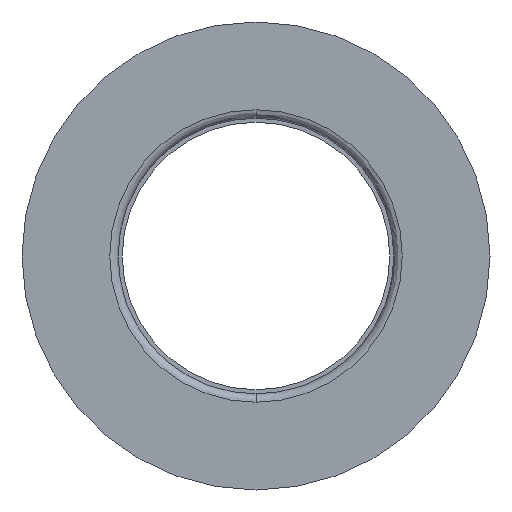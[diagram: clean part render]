
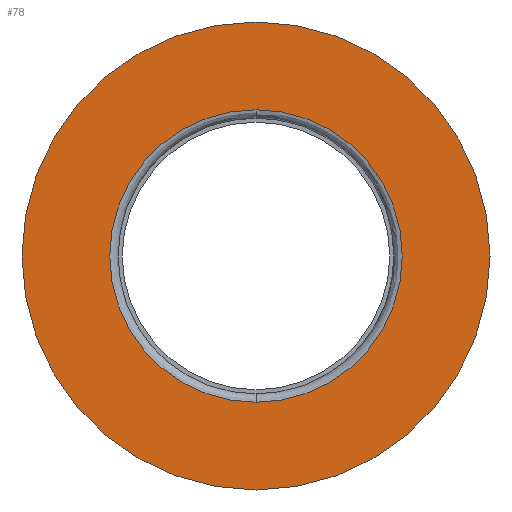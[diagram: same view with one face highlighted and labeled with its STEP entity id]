
A CAD part, left-side view. The second image highlights one B-rep face of the part: STEP entity #78.
In plain terms, the highlighted free-form (B-spline) face has degree [1, 1] with [2, 2] control points.
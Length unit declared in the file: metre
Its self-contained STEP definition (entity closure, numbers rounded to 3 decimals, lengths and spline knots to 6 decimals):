
#78 = ADVANCED_FACE( '', ( #105, #106 ), #107, .T. );
#105 = FACE_BOUND( '', #160, .T. );
#106 = FACE_OUTER_BOUND( '', #161, .T. );
#107 = B_SPLINE_SURFACE_WITH_KNOTS( '', 1, 1, ( ( #162, #163 ), ( #164, #165 ) ), .UNSPECIFIED., .F., .F., .F., ( 2, 2 ), ( 2, 2 ), ( 0., 1. ), ( 0., 1. ), .UNSPECIFIED. );
#160 = EDGE_LOOP( '', ( #339, #340 ) );
#161 = EDGE_LOOP( '', ( #341, #342 ) );
#162 = CARTESIAN_POINT( '', ( -0.03, -0.014168, -0.014168 ) );
#163 = CARTESIAN_POINT( '', ( -0.03, 0.014168, -0.014168 ) );
#164 = CARTESIAN_POINT( '', ( -0.03, -0.014168, 0.014168 ) );
#165 = CARTESIAN_POINT( '', ( -0.03, 0.014168, 0.014168 ) );
#339 = ORIENTED_EDGE( '', *, *, #487, .T. );
#340 = ORIENTED_EDGE( '', *, *, #488, .T. );
#341 = ORIENTED_EDGE( '', *, *, #489, .T. );
#342 = ORIENTED_EDGE( '', *, *, #490, .T. );
#487 = EDGE_CURVE( '', #539, #540, #541, .F. );
#488 = EDGE_CURVE( '', #540, #539, #542, .F. );
#489 = EDGE_CURVE( '', #543, #544, #545, .F. );
#490 = EDGE_CURVE( '', #544, #543, #546, .F. );
#539 = VERTEX_POINT( '', #619 );
#540 = VERTEX_POINT( '', #620 );
#541 = CIRCLE( '', #621, 0.00875 );
#542 = CIRCLE( '', #622, 0.00875 );
#543 = VERTEX_POINT( '', #623 );
#544 = VERTEX_POINT( '', #624 );
#545 = CIRCLE( '', #625, 0.014 );
#546 = CIRCLE( '', #626, 0.014 );
#619 = CARTESIAN_POINT( '', ( -0.03, 0., -0.00875 ) );
#620 = CARTESIAN_POINT( '', ( -0.03, 0., 0.00875 ) );
#621 = AXIS2_PLACEMENT_3D( '', #749, #750, #751 );
#622 = AXIS2_PLACEMENT_3D( '', #752, #753, #754 );
#623 = CARTESIAN_POINT( '', ( -0.03, 0., 0.014 ) );
#624 = CARTESIAN_POINT( '', ( -0.03, 0., -0.014 ) );
#625 = AXIS2_PLACEMENT_3D( '', #755, #756, #757 );
#626 = AXIS2_PLACEMENT_3D( '', #758, #759, #760 );
#749 = CARTESIAN_POINT( '', ( -0.03, 0., 0. ) );
#750 = DIRECTION( '', ( -1., 0., 0. ) );
#751 = DIRECTION( '', ( 0., -1., 0. ) );
#752 = CARTESIAN_POINT( '', ( -0.03, 0., 0. ) );
#753 = DIRECTION( '', ( -1., 0., 0. ) );
#754 = DIRECTION( '', ( 0., -1., 0. ) );
#755 = CARTESIAN_POINT( '', ( -0.03, 0., 0. ) );
#756 = DIRECTION( '', ( 1., 0., 0. ) );
#757 = DIRECTION( '', ( 0., 0., -1. ) );
#758 = CARTESIAN_POINT( '', ( -0.03, 0., 0. ) );
#759 = DIRECTION( '', ( 1., 0., 0. ) );
#760 = DIRECTION( '', ( 0., 0., -1. ) );
